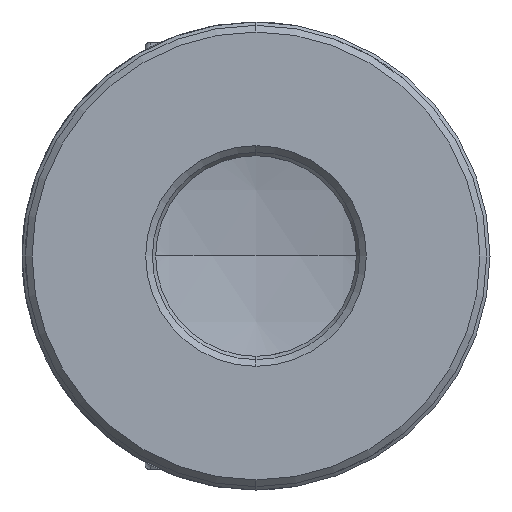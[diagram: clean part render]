
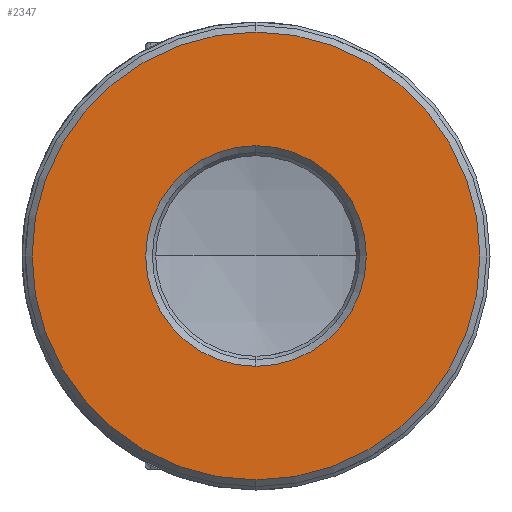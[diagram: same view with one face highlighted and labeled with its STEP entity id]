
A CAD part, left-side view. The second image highlights one B-rep face of the part: STEP entity #2347.
In plain terms, the highlighted planar face has unit normal (-1, 0, 0).
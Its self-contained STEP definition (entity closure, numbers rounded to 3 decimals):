
#30 = AXIS2_PLACEMENT_3D ( 'NONE', #154, #5300, #888 ) ;
#154 = CARTESIAN_POINT ( 'NONE',  ( 0., 0., 0. ) ) ;
#426 = ORIENTED_EDGE ( 'NONE', *, *, #2382, .T. ) ;
#450 = ORIENTED_EDGE ( 'NONE', *, *, #7499, .T. ) ;
#888 = DIRECTION ( 'NONE',  ( 0., 0., -1. ) ) ;
#1126 = ORIENTED_EDGE ( 'NONE', *, *, #6481, .T. ) ;
#1359 = EDGE_LOOP ( 'NONE', ( #450, #7647 ) ) ;
#1846 = CARTESIAN_POINT ( 'NONE',  ( 0., 0., 8.25 ) ) ;
#1877 = EDGE_CURVE ( 'NONE', #7775, #8142, #6690, .T. ) ;
#2034 = CARTESIAN_POINT ( 'NONE',  ( 0., 0., 0. ) ) ;
#2128 = VERTEX_POINT ( 'NONE', #3759 ) ;
#2347 = ADVANCED_FACE ( 'NONE', ( #2951, #8577 ), #7122, .F. ) ;
#2382 = EDGE_CURVE ( 'NONE', #2128, #7410, #5925, .T. ) ;
#2600 = EDGE_LOOP ( 'NONE', ( #1126, #426 ) ) ;
#2780 = DIRECTION ( 'NONE',  ( 0., 0., -1. ) ) ;
#2951 = FACE_BOUND ( 'NONE', #2600, .T. ) ;
#3488 = DIRECTION ( 'NONE',  ( 1., 0., 0. ) ) ;
#3519 = DIRECTION ( 'NONE',  ( 1., 0., 0. ) ) ;
#3759 = CARTESIAN_POINT ( 'NONE',  ( 0., 0., -8.25 ) ) ;
#4236 = CARTESIAN_POINT ( 'NONE',  ( 0., 0., 0. ) ) ;
#4366 = AXIS2_PLACEMENT_3D ( 'NONE', #4236, #9348, #4975 ) ;
#4877 = AXIS2_PLACEMENT_3D ( 'NONE', #7878, #3488, #8604 ) ;
#4975 = DIRECTION ( 'NONE',  ( 0., 0., -1. ) ) ;
#5300 = DIRECTION ( 'NONE',  ( -1., 0., 0. ) ) ;
#5925 = CIRCLE ( 'NONE', #4366, 8.25 ) ;
#5952 = CIRCLE ( 'NONE', #30, 16.75 ) ;
#6132 = CARTESIAN_POINT ( 'NONE',  ( 0., 0., -16.75 ) ) ;
#6481 = EDGE_CURVE ( 'NONE', #7410, #2128, #8727, .T. ) ;
#6690 = CIRCLE ( 'NONE', #7391, 16.75 ) ;
#7122 = PLANE ( 'NONE',  #4877 ) ;
#7153 = CARTESIAN_POINT ( 'NONE',  ( 0., 0., 16.75 ) ) ;
#7188 = DIRECTION ( 'NONE',  ( -1., 0., 0. ) ) ;
#7391 = AXIS2_PLACEMENT_3D ( 'NONE', #2034, #7188, #2780 ) ;
#7410 = VERTEX_POINT ( 'NONE', #1846 ) ;
#7499 = EDGE_CURVE ( 'NONE', #8142, #7775, #5952, .T. ) ;
#7647 = ORIENTED_EDGE ( 'NONE', *, *, #1877, .T. ) ;
#7775 = VERTEX_POINT ( 'NONE', #7153 ) ;
#7878 = CARTESIAN_POINT ( 'NONE',  ( 0., 7.75, 0. ) ) ;
#7901 = CARTESIAN_POINT ( 'NONE',  ( 0., 0., 0. ) ) ;
#8142 = VERTEX_POINT ( 'NONE', #6132 ) ;
#8227 = AXIS2_PLACEMENT_3D ( 'NONE', #7901, #3519, #8633 ) ;
#8577 = FACE_OUTER_BOUND ( 'NONE', #1359, .T. ) ;
#8604 = DIRECTION ( 'NONE',  ( 0., 0., -1. ) ) ;
#8633 = DIRECTION ( 'NONE',  ( 0., 0., -1. ) ) ;
#8727 = CIRCLE ( 'NONE', #8227, 8.25 ) ;
#9348 = DIRECTION ( 'NONE',  ( 1., 0., 0. ) ) ;
